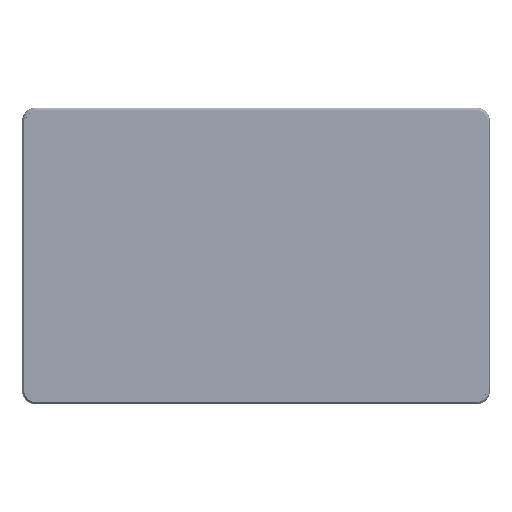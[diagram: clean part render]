
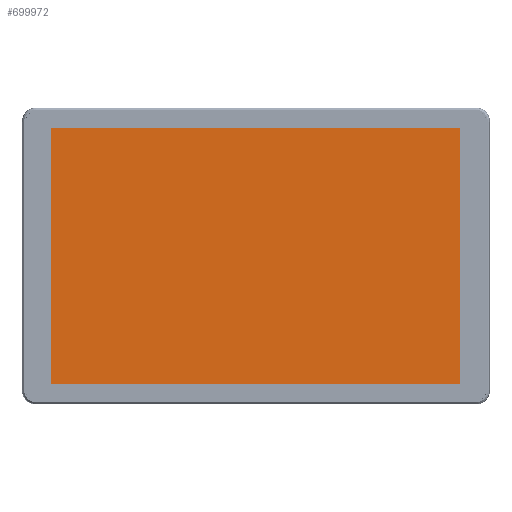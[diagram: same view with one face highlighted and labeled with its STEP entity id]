
A CAD part, front view. The second image highlights one B-rep face of the part: STEP entity #699972.
In plain terms, the highlighted planar face has unit normal (0, -1, 0).
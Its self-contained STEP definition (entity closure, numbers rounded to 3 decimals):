
#666231=DIRECTION('',(0.,0.,1.));
#666232=VECTOR('',#666231,136.21);
#666233=CARTESIAN_POINT('',(-1008.492,-95.715,
139.175));
#666234=LINE('',#666233,#666232);
#666235=DIRECTION('',(1.,0.,0.));
#666236=VECTOR('',#666235,217.43);
#666237=CARTESIAN_POINT('',(-1008.492,-95.715,
275.385));
#666238=LINE('',#666237,#666236);
#666239=DIRECTION('',(0.,0.,-1.));
#666240=VECTOR('',#666239,136.21);
#666241=CARTESIAN_POINT('',(-791.062,-95.715,
275.385));
#666242=LINE('',#666241,#666240);
#666243=DIRECTION('',(-1.,0.,0.));
#666244=VECTOR('',#666243,217.43);
#666245=CARTESIAN_POINT('',(-791.062,-95.715,
139.175));
#666246=LINE('',#666245,#666244);
#671850=CARTESIAN_POINT('',(-1008.492,-95.715,
275.385));
#671851=VERTEX_POINT('',#671850);
#671852=CARTESIAN_POINT('',(-1008.492,-95.715,
139.175));
#671853=VERTEX_POINT('',#671852);
#671854=CARTESIAN_POINT('',(-791.062,-95.715,
275.385));
#671855=VERTEX_POINT('',#671854);
#671856=CARTESIAN_POINT('',(-791.062,-95.715,
139.175));
#671857=VERTEX_POINT('',#671856);
#699961=CARTESIAN_POINT('',(-782.702,-95.715,
130.405));
#699962=DIRECTION('',(0.,-1.,0.));
#699963=DIRECTION('',(1.,0.,0.));
#699964=AXIS2_PLACEMENT_3D('',#699961,#699962,#699963);
#699965=PLANE('',#699964);
#699966=ORIENTED_EDGE('',*,*,#699913,.T.);
#699967=ORIENTED_EDGE('',*,*,#699928,.T.);
#699968=ORIENTED_EDGE('',*,*,#699942,.T.);
#699969=ORIENTED_EDGE('',*,*,#699955,.T.);
#699970=EDGE_LOOP('',(#699966,#699967,#699968,#699969));
#699971=FACE_OUTER_BOUND('',#699970,.F.);
#699972=ADVANCED_FACE('',(#699971),#699965,.T.);
#699913=EDGE_CURVE('',#671853,#671851,#666234,.T.);
#699928=EDGE_CURVE('',#671851,#671855,#666238,.T.);
#699942=EDGE_CURVE('',#671855,#671857,#666242,.T.);
#699955=EDGE_CURVE('',#671857,#671853,#666246,.T.);
